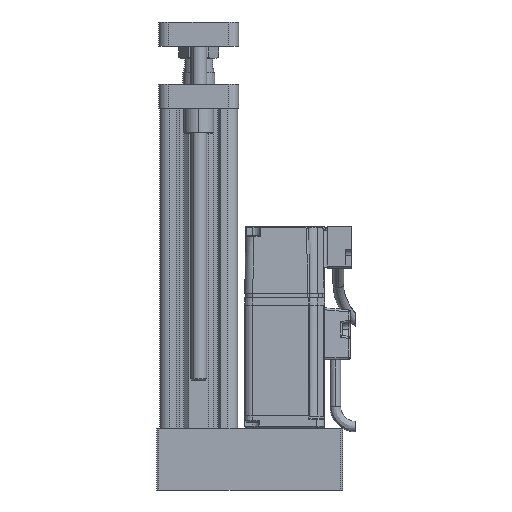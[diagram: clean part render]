
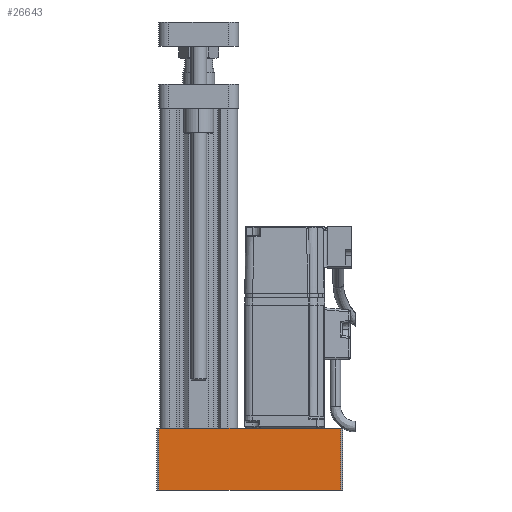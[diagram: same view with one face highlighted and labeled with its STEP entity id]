
A CAD part, left-side view. The second image highlights one B-rep face of the part: STEP entity #26643.
In plain terms, the highlighted planar face has unit normal (-1, 0, 0) as drawn and (0, 1, 0) by its records, which use the part's own axes.
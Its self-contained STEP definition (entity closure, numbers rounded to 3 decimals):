
#719 = ORIENTED_EDGE ( 'NONE', *, *, #23091, .T. ) ;
#1370 = DIRECTION ( 'NONE',  ( -1., 0., 0. ) ) ;
#3599 = VECTOR ( 'NONE', #1370, 1000. ) ;
#3881 = ORIENTED_EDGE ( 'NONE', *, *, #12812, .F. ) ;
#4373 = VECTOR ( 'NONE', #23594, 1000. ) ;
#4392 = VERTEX_POINT ( 'NONE', #17380 ) ;
#4661 = VERTEX_POINT ( 'NONE', #16901 ) ;
#4797 = FACE_OUTER_BOUND ( 'NONE', #27685, .T. ) ;
#5304 = CARTESIAN_POINT ( 'NONE',  ( 45.5, 24., 0. ) ) ;
#5498 = DIRECTION ( 'NONE',  ( 0., -1., 0. ) ) ;
#6328 = VECTOR ( 'NONE', #26449, 1000. ) ;
#7384 = LINE ( 'NONE', #16447, #22311 ) ;
#7517 = DIRECTION ( 'NONE',  ( 0., 0., -1. ) ) ;
#7768 = CARTESIAN_POINT ( 'NONE',  ( 45.5, 24., 31. ) ) ;
#10069 = CARTESIAN_POINT ( 'NONE',  ( -46.5, 24., 31. ) ) ;
#10382 = EDGE_CURVE ( 'NONE', #22046, #4661, #21291, .T. ) ;
#10861 = CARTESIAN_POINT ( 'NONE',  ( 45.5, 24., 31. ) ) ;
#12812 = EDGE_CURVE ( 'NONE', #24817, #4392, #7384, .T. ) ;
#16447 = CARTESIAN_POINT ( 'NONE',  ( -46.5, 24., 31. ) ) ;
#16901 = CARTESIAN_POINT ( 'NONE',  ( -45.5, 24., 0. ) ) ;
#17061 = CARTESIAN_POINT ( 'NONE',  ( -46.5, 24., 0. ) ) ;
#17380 = CARTESIAN_POINT ( 'NONE',  ( -45.5, 24., 31. ) ) ;
#17502 = AXIS2_PLACEMENT_3D ( 'NONE', #10069, #5498, #7517 ) ;
#18001 = EDGE_CURVE ( 'NONE', #24817, #22046, #26914, .T. ) ;
#18773 = DIRECTION ( 'NONE',  ( -1., 0., 0. ) ) ;
#18876 = PLANE ( 'NONE',  #17502 ) ;
#20212 = CARTESIAN_POINT ( 'NONE',  ( -45.5, 24., 31. ) ) ;
#21291 = LINE ( 'NONE', #17061, #3599 ) ;
#21895 = ORIENTED_EDGE ( 'NONE', *, *, #18001, .T. ) ;
#22046 = VERTEX_POINT ( 'NONE', #5304 ) ;
#22311 = VECTOR ( 'NONE', #18773, 1000. ) ;
#23091 = EDGE_CURVE ( 'NONE', #4661, #4392, #27851, .T. ) ;
#23594 = DIRECTION ( 'NONE',  ( 0., 0., -1. ) ) ;
#24817 = VERTEX_POINT ( 'NONE', #10861 ) ;
#26449 = DIRECTION ( 'NONE',  ( 0., 0., 1. ) ) ;
#26643 = ADVANCED_FACE ( 'NONE', ( #4797 ), #18876, .F. ) ;
#26914 = LINE ( 'NONE', #7768, #4373 ) ;
#27685 = EDGE_LOOP ( 'NONE', ( #3881, #21895, #28342, #719 ) ) ;
#27851 = LINE ( 'NONE', #20212, #6328 ) ;
#28342 = ORIENTED_EDGE ( 'NONE', *, *, #10382, .T. ) ;
